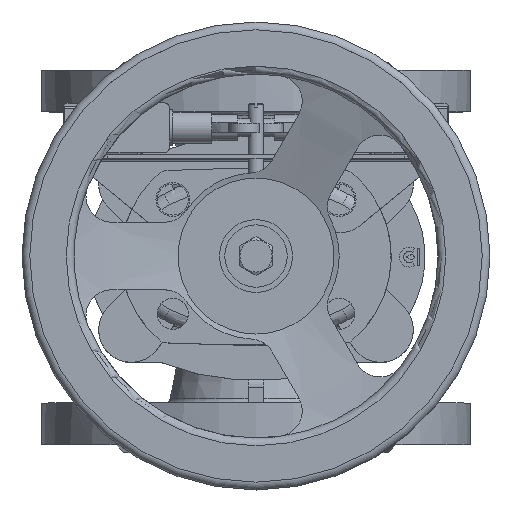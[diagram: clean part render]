
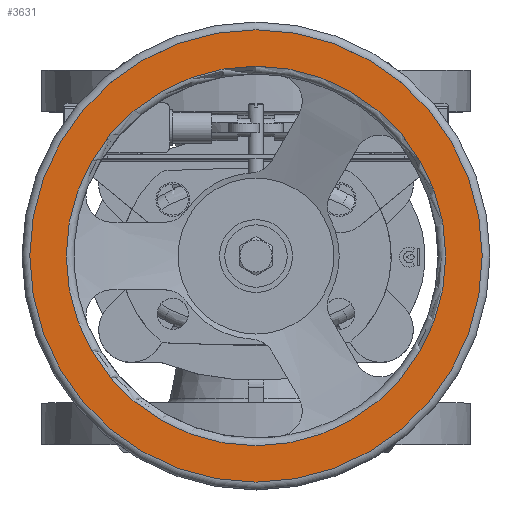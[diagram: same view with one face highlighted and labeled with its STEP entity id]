
A CAD part, top view. The second image highlights one B-rep face of the part: STEP entity #3631.
In plain terms, the highlighted planar face has unit normal (0, 0, 1).
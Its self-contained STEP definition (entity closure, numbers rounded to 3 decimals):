
#3631=ADVANCED_FACE('',(#6864,#6866),#6868,.T.);
#6864=FACE_BOUND('',#6865,.T.);
#6865=EDGE_LOOP('',(#9071));
#6866=FACE_BOUND('',#6867,.T.);
#6867=EDGE_LOOP('',(#9072));
#6868=PLANE('',#6869);
#6869=AXIS2_PLACEMENT_3D('',#6870,#6871,#6872);
#6870=CARTESIAN_POINT('',(0.,0.,336.5));
#6871=DIRECTION('',(0.,0.,1.));
#6872=DIRECTION('',(0.,-1.,0.));
#9071=ORIENTED_EDGE('',*,*,#10144,.T.);
#9072=ORIENTED_EDGE('',*,*,#10141,.F.);
#10141=EDGE_CURVE('',#11857,#11857,#11858,.T.);
#10144=EDGE_CURVE('',#11863,#11863,#11864,.T.);
#11857=VERTEX_POINT('',#19181);
#11858=CIRCLE('',#19182,73.);
#11863=VERTEX_POINT('',#19196);
#11864=CIRCLE('',#19197,87.);
#19181=CARTESIAN_POINT('',(0.,-73.,336.5));
#19182=AXIS2_PLACEMENT_3D('',#19183,#19184,#19185);
#19183=CARTESIAN_POINT('',(0.,0.,336.5));
#19184=DIRECTION('',(0.,0.,1.));
#19185=DIRECTION('',(0.,-1.,0.));
#19196=CARTESIAN_POINT('',(0.,-87.,336.5));
#19197=AXIS2_PLACEMENT_3D('',#19198,#19199,#19200);
#19198=CARTESIAN_POINT('',(0.,0.,336.5));
#19199=DIRECTION('',(0.,0.,1.));
#19200=DIRECTION('',(0.,-1.,0.));
